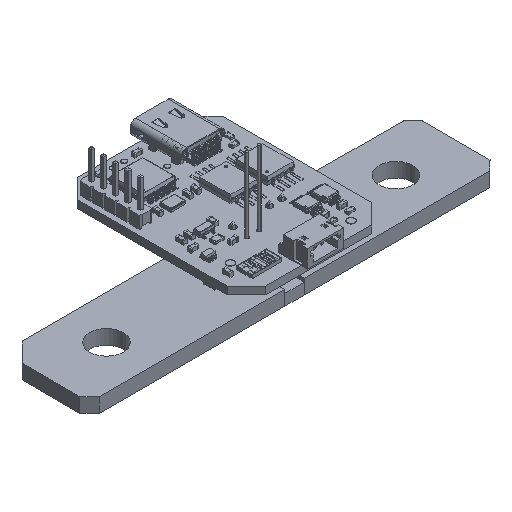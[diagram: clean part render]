
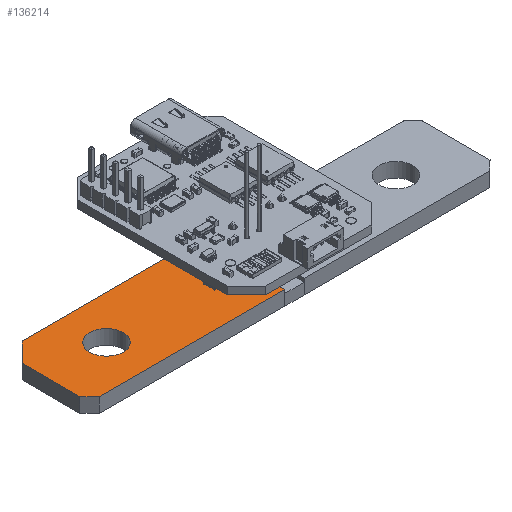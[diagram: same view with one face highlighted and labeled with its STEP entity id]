
A CAD part, isometric view. The second image highlights one B-rep face of the part: STEP entity #136214.
In plain terms, the highlighted planar face has unit normal (0, 0, 1).
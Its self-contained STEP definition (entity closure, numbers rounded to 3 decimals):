
#136005 = VERTEX_POINT('',#136006);
#136006 = CARTESIAN_POINT('',(18.716,0.467,3.));
#136012 = EDGE_CURVE('',#136013,#136005,#136015,.T.);
#136013 = VERTEX_POINT('',#136014);
#136014 = CARTESIAN_POINT('',(18.716,-0.467,3.));
#136015 = CIRCLE('',#136016,1.588);
#136016 = AXIS2_PLACEMENT_3D('',#136017,#136018,#136019);
#136017 = CARTESIAN_POINT('',(17.199,0.,3.));
#136018 = DIRECTION('',(0.,0.,1.));
#136019 = DIRECTION('',(1.,0.,0.));
#136054 = VERTEX_POINT('',#136055);
#136055 = CARTESIAN_POINT('',(-4.234,0.,3.));
#136060 = EDGE_CURVE('',#136054,#136054,#136061,.T.);
#136061 = CIRCLE('',#136062,3.5);
#136062 = AXIS2_PLACEMENT_3D('',#136063,#136064,#136065);
#136063 = CARTESIAN_POINT('',(-7.734,0.,3.));
#136064 = DIRECTION('',(0.,0.,1.));
#136065 = DIRECTION('',(1.,0.,0.));
#136087 = VERTEX_POINT('',#136088);
#136088 = CARTESIAN_POINT('',(-20.234,-7.,3.));
#136094 = EDGE_CURVE('',#136095,#136087,#136097,.T.);
#136095 = VERTEX_POINT('',#136096);
#136096 = CARTESIAN_POINT('',(-20.234,5.,3.));
#136097 = LINE('',#136098,#136099);
#136098 = CARTESIAN_POINT('',(-20.234,-9.,3.));
#136099 = VECTOR('',#136100,1.);
#136100 = DIRECTION('',(0.,-1.,0.));
#136116 = EDGE_CURVE('',#136117,#136119,#136121,.T.);
#136117 = VERTEX_POINT('',#136118);
#136118 = CARTESIAN_POINT('',(-18.234,-9.,3.));
#136119 = VERTEX_POINT('',#136120);
#136120 = CARTESIAN_POINT('',(20.234,-9.,3.));
#136121 = LINE('',#136122,#136123);
#136122 = CARTESIAN_POINT('',(20.234,-9.,3.));
#136123 = VECTOR('',#136124,1.);
#136124 = DIRECTION('',(1.,0.,0.));
#136165 = VERTEX_POINT('',#136166);
#136166 = CARTESIAN_POINT('',(20.234,9.,3.));
#136172 = EDGE_CURVE('',#136119,#136165,#136173,.T.);
#136173 = LINE('',#136174,#136175);
#136174 = CARTESIAN_POINT('',(20.234,-9.,3.));
#136175 = VECTOR('',#136176,1.);
#136176 = DIRECTION('',(0.,1.,0.));
#136196 = VERTEX_POINT('',#136197);
#136197 = CARTESIAN_POINT('',(-16.234,9.,3.));
#136203 = EDGE_CURVE('',#136165,#136196,#136204,.T.);
#136204 = LINE('',#136205,#136206);
#136205 = CARTESIAN_POINT('',(20.234,9.,3.));
#136206 = VECTOR('',#136207,1.);
#136207 = DIRECTION('',(-1.,0.,0.));
#136214 = ADVANCED_FACE('',(#136215,#136233,#136277),#136280,.T.);
#136215 = FACE_BOUND('',#136216,.T.);
#136216 = EDGE_LOOP('',(#136217,#136218,#136224,#136225,#136226,#136227)
  );
#136217 = ORIENTED_EDGE('',*,*,#136094,.T.);
#136218 = ORIENTED_EDGE('',*,*,#136219,.T.);
#136219 = EDGE_CURVE('',#136087,#136117,#136220,.T.);
#136220 = LINE('',#136221,#136222);
#136221 = CARTESIAN_POINT('',(-13.617,-13.617,3.));
#136222 = VECTOR('',#136223,1.);
#136223 = DIRECTION('',(0.707,-0.707,0.));
#136224 = ORIENTED_EDGE('',*,*,#136116,.T.);
#136225 = ORIENTED_EDGE('',*,*,#136172,.T.);
#136226 = ORIENTED_EDGE('',*,*,#136203,.T.);
#136227 = ORIENTED_EDGE('',*,*,#136228,.T.);
#136228 = EDGE_CURVE('',#136196,#136095,#136229,.T.);
#136229 = LINE('',#136230,#136231);
#136230 = CARTESIAN_POINT('',(-12.617,12.617,3.));
#136231 = VECTOR('',#136232,1.);
#136232 = DIRECTION('',(-0.707,-0.707,0.));
#136233 = FACE_BOUND('',#136234,.T.);
#136234 = EDGE_LOOP('',(#136235,#136246,#136255,#136261,#136262,#136270)
  );
#136235 = ORIENTED_EDGE('',*,*,#136236,.F.);
#136236 = EDGE_CURVE('',#136237,#136239,#136241,.T.);
#136237 = VERTEX_POINT('',#136238);
#136238 = CARTESIAN_POINT('',(15.798,2.624,3.));
#136239 = VERTEX_POINT('',#136240);
#136240 = CARTESIAN_POINT('',(15.798,-2.624,3.));
#136241 = CIRCLE('',#136242,3.33);
#136242 = AXIS2_PLACEMENT_3D('',#136243,#136244,#136245);
#136243 = CARTESIAN_POINT('',(17.849,0.,3.));
#136244 = DIRECTION('',(0.,0.,1.));
#136245 = DIRECTION('',(1.,0.,0.));
#136246 = ORIENTED_EDGE('',*,*,#136247,.F.);
#136247 = EDGE_CURVE('',#136248,#136237,#136250,.T.);
#136248 = VERTEX_POINT('',#136249);
#136249 = CARTESIAN_POINT('',(18.293,1.84,3.));
#136250 = CIRCLE('',#136251,1.588);
#136251 = AXIS2_PLACEMENT_3D('',#136252,#136253,#136254);
#136252 = CARTESIAN_POINT('',(16.776,1.373,3.));
#136253 = DIRECTION('',(0.,0.,1.));
#136254 = DIRECTION('',(1.,0.,0.));
#136255 = ORIENTED_EDGE('',*,*,#136256,.F.);
#136256 = EDGE_CURVE('',#136005,#136248,#136257,.T.);
#136257 = LINE('',#136258,#136259);
#136258 = CARTESIAN_POINT('',(17.226,5.305,3.));
#136259 = VECTOR('',#136260,1.);
#136260 = DIRECTION('',(-0.294,0.956,0.));
#136261 = ORIENTED_EDGE('',*,*,#136012,.F.);
#136262 = ORIENTED_EDGE('',*,*,#136263,.T.);
#136263 = EDGE_CURVE('',#136013,#136264,#136266,.T.);
#136264 = VERTEX_POINT('',#136265);
#136265 = CARTESIAN_POINT('',(18.293,-1.84,3.));
#136266 = LINE('',#136267,#136268);
#136267 = CARTESIAN_POINT('',(17.226,-5.305,3.));
#136268 = VECTOR('',#136269,1.);
#136269 = DIRECTION('',(-0.294,-0.956,0.));
#136270 = ORIENTED_EDGE('',*,*,#136271,.F.);
#136271 = EDGE_CURVE('',#136239,#136264,#136272,.T.);
#136272 = CIRCLE('',#136273,1.588);
#136273 = AXIS2_PLACEMENT_3D('',#136274,#136275,#136276);
#136274 = CARTESIAN_POINT('',(16.776,-1.373,3.));
#136275 = DIRECTION('',(0.,0.,1.));
#136276 = DIRECTION('',(1.,0.,0.));
#136277 = FACE_BOUND('',#136278,.T.);
#136278 = EDGE_LOOP('',(#136279));
#136279 = ORIENTED_EDGE('',*,*,#136060,.F.);
#136280 = PLANE('',#136281);
#136281 = AXIS2_PLACEMENT_3D('',#136282,#136283,#136284);
#136282 = CARTESIAN_POINT('',(0.,0.,3.));
#136283 = DIRECTION('',(0.,0.,1.));
#136284 = DIRECTION('',(1.,0.,0.));
